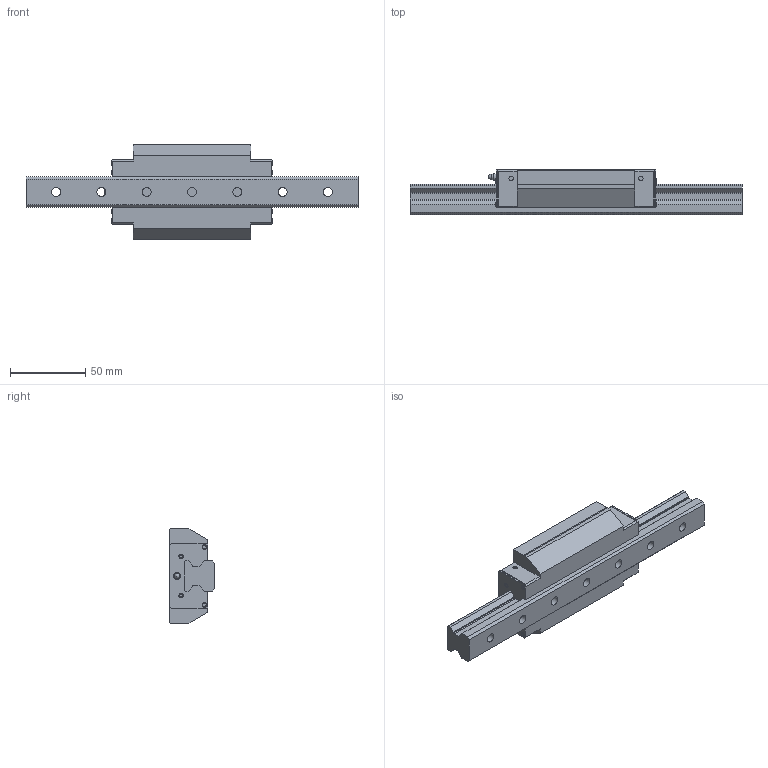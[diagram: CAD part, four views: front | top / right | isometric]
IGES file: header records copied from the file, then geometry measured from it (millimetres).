
Start section: Data from Parasolid IGES Translator 26.0.171, Copyright(c) 2006 Siemens PLM Software. All Rights Reserved.
Global section: file name: SRG20XLA1SS-220LP_G20_0_PB107_56-9_0_0_0_1.igs; native system: By Siemens PLM Incorporated; preprocessor: XPlus GENERIC/IGES 26.0.171; author: Noname; organization: Noname; date: 20240523.093557; units: millimetre
Bounding box: 220 x 30 x 63 mm (x, y, z)
Surface area: 47054.3 mm2 (no closed solid volume)
Topology: 0 solids, 0 shells, 248 faces, 1211 edges, 1113 vertices
Faces by surface type: extrusion 188, revolution 60
